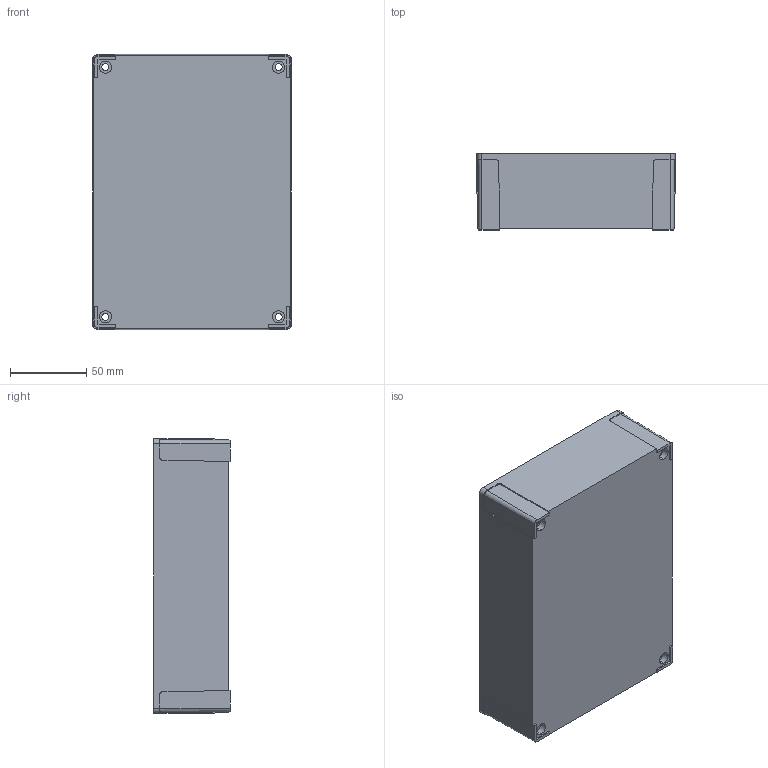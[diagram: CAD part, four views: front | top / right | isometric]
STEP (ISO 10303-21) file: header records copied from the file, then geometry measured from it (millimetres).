
FILE_DESCRIPTION (( 'STEP AP203' ), '1' );
FILE_NAME ('FIBOX_MNX150HB.STEP', '2005-06-30T06:58:49', ( ' ' ), ( ' ' ), 'SwSTEP 2.0', 'SolidWorks 2005143', '' );
FILE_SCHEMA (( 'CONFIG_CONTROL_DESIGN' ));
Length unit declared in the file: millimetre
Products named in the file (1): FIBOX_MNX150HB
Bounding box: 130.1 x 50 x 180.1 mm (x, y, z)
Volume: 204580.4 mm3; surface area: 110978.2 mm2
Topology: 1 solids, 1 shells, 290 faces, 717 edges, 478 vertices
Faces by surface type: plane 162, cylinder 108, cone 20
Entity records: 8806 total; most frequent: CARTESIAN_POINT 1630, DIRECTION 1515, ORIENTED_EDGE 1434, EDGE_CURVE 717, AXIS2_PLACEMENT_3D 539, VERTEX_POINT 478, VECTOR 437, LINE 437
